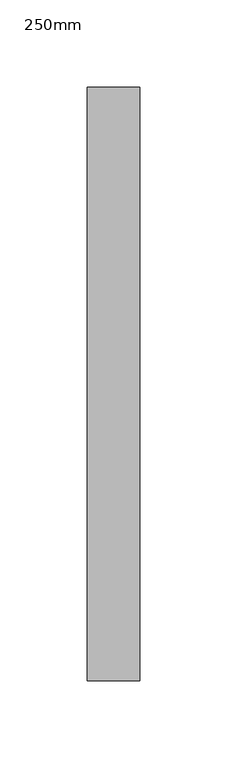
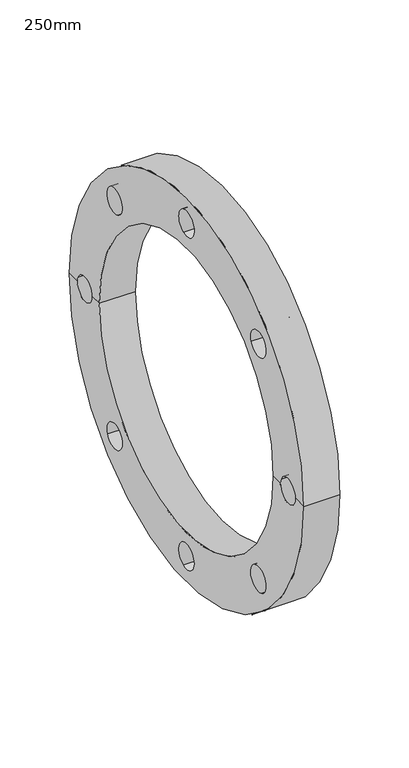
"""IFC4 building model written with IfcOpenShell, lengths in millimetres: pipe fitting geometry, Durapipe_PipeFitting_PVC_BackingFlange : 250mm."""

from ifc_helpers import new_model, si_unit, frame, origin, place, context, project, spatial, polyline, circle_curve, source, transform, mapped, element, save
from ifc_brep_helpers import plane_surface, cylinder_surface, revolved_surface, advanced_brep


def pipe_fitting_250mm_ace15a35(model_context):
    return source(origin(), model_context, "Body", "AdvancedBrep", [
        advanced_brep(
        [(-15.0, 170.0, 0.0), (15.0, 170.0, 0.0), (15.0, -170.0, 0.0), (-15.0, -170.0, 0.0), (-15.0, -158.0998543, 0.0), (-15.0, -157.2611011, -4.2679074), (-15.0, -136.1001255, 0.0), (-15.0, -126.0, 0.0), (-15.0, 126.0, 0.0), (-15.0, 136.1001255, 0.0), (-15.0, 136.9388787, -4.1586741), (-15.0, 158.0998543, 0.0), (-15.0, 114.2182572, -108.1825247), (-15.0, 93.889783, -99.7710364), (-15.0, 4.2679074, -157.2611011), (-15.0, -4.1586741, -136.9388787), (-15.0, -108.1825247, -114.2182572), (-15.0, -99.7710364, -93.889783), (-15.0, 157.2611011, 4.2679074), (-15.0, -136.9388787, 4.1586741), (-15.0, 108.1825247, 114.2182572), (-15.0, 99.7710364, 93.889783), (-15.0, -4.2679074, 157.2611011), (-15.0, 4.1586741, 136.9388787), (-15.0, -114.2182572, 108.1825247), (-15.0, -93.889783, 99.7710364), (15.0, 126.0, 0.0), (15.0, -126.0, 0.0), (15.0, -136.1001255, 0.0), (15.0, -157.2611011, -4.2679074), (15.0, -158.0998543, 0.0), (15.0, 158.0998543, 0.0), (15.0, 136.9388787, -4.1586741), (15.0, 136.1001255, 0.0), (15.0, 93.889783, -99.7710364), (15.0, 114.2182572, -108.1825247), (15.0, -4.1586741, -136.9388787), (15.0, 4.2679074, -157.2611011), (15.0, -99.7710364, -93.889783), (15.0, -108.1825247, -114.2182572), (15.0, 157.2611011, 4.2679074), (15.0, -136.9388787, 4.1586741), (15.0, 99.7710364, 93.889783), (15.0, 108.1825247, 114.2182572), (15.0, 4.1586741, 136.9388787), (15.0, -4.2679074, 157.2611011), (15.0, -93.889783, 99.7710364), (15.0, -114.2182572, 108.1825247)],
        [
            (0, 1),
            (1, 2, circle_curve(frame((15.0, 0.0, 0.0), z_axis=(-1.0, 0.0, 0.0), x_axis=(0.0, 1.0, 0.0)), 170.0)),
            (2, 3),
            (3, 0, circle_curve(frame((-15.0, 0.0, 0.0), z_axis=(1.0, 0.0, 0.0), x_axis=(0.0, 1.0, 0.0)), 170.0)),
            (0, 3, circle_curve(frame((-15.0, 0.0, 0.0), z_axis=(1.0, 0.0, 0.0), x_axis=(0.0, 1.0, 0.0)), 170.0)),
            (2, 1, circle_curve(frame((15.0, 0.0, 0.0), z_axis=(-1.0, 0.0, 0.0), x_axis=(0.0, 1.0, 0.0)), 170.0)),
            (3, 4),
            (4, 5, circle_curve(frame((-15.0, -147.0999899, -0.0546166), z_axis=(1.0, 0.0, 0.0), x_axis=(0.0, -0.9237373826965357, -0.38302643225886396)), 11.0)),
            (5, 6, circle_curve(frame((-15.0, -147.0999899, -0.0546166), z_axis=(1.0, 0.0, 0.0), x_axis=(0.0, -0.9237373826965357, -0.38302643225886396)), 11.0)),
            (6, 7),
            (7, 8, circle_curve(frame((-15.0, 0.0, 0.0), z_axis=(1.0, 0.0, 0.0), x_axis=(0.0, 1.0, 0.0)), 126.0)),
            (8, 9),
            (9, 10, circle_curve(frame((-15.0, 147.0999899, 0.0546166), z_axis=(1.0, 0.0, 0.0), x_axis=(0.0, 0.92373738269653, 0.38302643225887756)), 11.0)),
            (10, 11, circle_curve(frame((-15.0, 147.0999899, 0.0546166), z_axis=(1.0, 0.0, 0.0), x_axis=(0.0, 0.92373738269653, 0.38302643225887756)), 11.0)),
            (11, 0),
            (12, 13, circle_curve(frame((-15.0, 104.0540201, -103.9767806), z_axis=(1.0, 0.0, 0.0), x_axis=(0.0, 0.9240215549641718, -0.3823403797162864)), 11.0)),
            (13, 12, circle_curve(frame((-15.0, 104.0540201, -103.9767806), z_axis=(1.0, 0.0, 0.0), x_axis=(0.0, 0.9240215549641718, -0.3823403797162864)), 11.0)),
            (14, 15, circle_curve(frame((-15.0, 0.0546166, -147.0999899), z_axis=(1.0, 0.0, 0.0), x_axis=(0.0, 0.3830264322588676, -0.9237373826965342)), 11.0)),
            (15, 14, circle_curve(frame((-15.0, 0.0546166, -147.0999899), z_axis=(1.0, 0.0, 0.0), x_axis=(0.0, 0.3830264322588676, -0.9237373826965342)), 11.0)),
            (16, 17, circle_curve(frame((-15.0, -103.9767806, -104.0540201), z_axis=(1.0, 0.0, 0.0), x_axis=(0.0, -0.3823403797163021, -0.9240215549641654)), 11.0)),
            (17, 16, circle_curve(frame((-15.0, -103.9767806, -104.0540201), z_axis=(1.0, 0.0, 0.0), x_axis=(0.0, -0.3823403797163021, -0.9240215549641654)), 11.0)),
            (11, 18, circle_curve(frame((-15.0, 147.0999899, 0.0546166), z_axis=(1.0, 0.0, 0.0), x_axis=(0.0, 0.92373738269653, 0.38302643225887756)), 11.0)),
            (18, 9, circle_curve(frame((-15.0, 147.0999899, 0.0546166), z_axis=(1.0, 0.0, 0.0), x_axis=(0.0, 0.92373738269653, 0.38302643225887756)), 11.0)),
            (8, 7, circle_curve(frame((-15.0, 0.0, 0.0), z_axis=(1.0, 0.0, 0.0), x_axis=(0.0, 1.0, 0.0)), 126.0)),
            (6, 19, circle_curve(frame((-15.0, -147.0999899, -0.0546166), z_axis=(1.0, 0.0, 0.0), x_axis=(0.0, -0.9237373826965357, -0.38302643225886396)), 11.0)),
            (19, 4, circle_curve(frame((-15.0, -147.0999899, -0.0546166), z_axis=(1.0, 0.0, 0.0), x_axis=(0.0, -0.9237373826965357, -0.38302643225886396)), 11.0)),
            (20, 21, circle_curve(frame((-15.0, 103.9767806, 104.0540201), z_axis=(1.0, 0.0, 0.0), x_axis=(0.0, 0.3823403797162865, 0.9240215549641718)), 11.0)),
            (21, 20, circle_curve(frame((-15.0, 103.9767806, 104.0540201), z_axis=(1.0, 0.0, 0.0), x_axis=(0.0, 0.3823403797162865, 0.9240215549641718)), 11.0)),
            (22, 23, circle_curve(frame((-15.0, -0.0546166, 147.0999899), z_axis=(1.0, 0.0, 0.0), x_axis=(0.0, -0.38302643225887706, 0.9237373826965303)), 11.0)),
            (23, 22, circle_curve(frame((-15.0, -0.0546166, 147.0999899), z_axis=(1.0, 0.0, 0.0), x_axis=(0.0, -0.38302643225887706, 0.9237373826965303)), 11.0)),
            (24, 25, circle_curve(frame((-15.0, -104.0540201, 103.9767806), z_axis=(1.0, 0.0, 0.0), x_axis=(0.0, -0.9240215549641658, 0.38234037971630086)), 11.0)),
            (25, 24, circle_curve(frame((-15.0, -104.0540201, 103.9767806), z_axis=(1.0, 0.0, 0.0), x_axis=(0.0, -0.9240215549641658, 0.38234037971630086)), 11.0)),
            (26, 8),
            (7, 27),
            (27, 26, circle_curve(frame((15.0, 0.0, 0.0), z_axis=(1.0, 0.0, 0.0), x_axis=(0.0, 1.0, 0.0)), 126.0)),
            (26, 27, circle_curve(frame((15.0, 0.0, 0.0), z_axis=(1.0, 0.0, 0.0), x_axis=(0.0, 1.0, 0.0)), 126.0)),
            (27, 28),
            (28, 29, circle_curve(frame((15.0, -147.0999899, -0.0546166), z_axis=(-1.0, 0.0, 0.0), x_axis=(0.0, -0.9237373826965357, -0.38302643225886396)), 11.0)),
            (29, 30, circle_curve(frame((15.0, -147.0999899, -0.0546166), z_axis=(-1.0, 0.0, 0.0), x_axis=(0.0, -0.9237373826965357, -0.38302643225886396)), 11.0)),
            (30, 2),
            (1, 31),
            (31, 32, circle_curve(frame((15.0, 147.0999899, 0.0546166), z_axis=(-1.0, 0.0, 0.0), x_axis=(0.0, 0.92373738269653, 0.38302643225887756)), 11.0)),
            (32, 33, circle_curve(frame((15.0, 147.0999899, 0.0546166), z_axis=(-1.0, 0.0, 0.0), x_axis=(0.0, 0.92373738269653, 0.38302643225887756)), 11.0)),
            (33, 26),
            (34, 35, circle_curve(frame((15.0, 104.0540201, -103.9767806), z_axis=(-1.0, 0.0, 0.0), x_axis=(0.0, 0.9240215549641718, -0.3823403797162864)), 11.0)),
            (35, 34, circle_curve(frame((15.0, 104.0540201, -103.9767806), z_axis=(-1.0, 0.0, 0.0), x_axis=(0.0, 0.9240215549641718, -0.3823403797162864)), 11.0)),
            (36, 37, circle_curve(frame((15.0, 0.0546166, -147.0999899), z_axis=(-1.0, 0.0, 0.0), x_axis=(0.0, 0.3830264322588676, -0.9237373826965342)), 11.0)),
            (37, 36, circle_curve(frame((15.0, 0.0546166, -147.0999899), z_axis=(-1.0, 0.0, 0.0), x_axis=(0.0, 0.3830264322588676, -0.9237373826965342)), 11.0)),
            (38, 39, circle_curve(frame((15.0, -103.9767806, -104.0540201), z_axis=(-1.0, 0.0, 0.0), x_axis=(0.0, -0.3823403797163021, -0.9240215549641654)), 11.0)),
            (39, 38, circle_curve(frame((15.0, -103.9767806, -104.0540201), z_axis=(-1.0, 0.0, 0.0), x_axis=(0.0, -0.3823403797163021, -0.9240215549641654)), 11.0)),
            (33, 40, circle_curve(frame((15.0, 147.0999899, 0.0546166), z_axis=(-1.0, 0.0, 0.0), x_axis=(0.0, 0.92373738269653, 0.38302643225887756)), 11.0)),
            (40, 31, circle_curve(frame((15.0, 147.0999899, 0.0546166), z_axis=(-1.0, 0.0, 0.0), x_axis=(0.0, 0.92373738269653, 0.38302643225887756)), 11.0)),
            (30, 41, circle_curve(frame((15.0, -147.0999899, -0.0546166), z_axis=(-1.0, 0.0, 0.0), x_axis=(0.0, -0.9237373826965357, -0.38302643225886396)), 11.0)),
            (41, 28, circle_curve(frame((15.0, -147.0999899, -0.0546166), z_axis=(-1.0, 0.0, 0.0), x_axis=(0.0, -0.9237373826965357, -0.38302643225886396)), 11.0)),
            (42, 43, circle_curve(frame((15.0, 103.9767806, 104.0540201), z_axis=(-1.0, 0.0, 0.0), x_axis=(0.0, 0.3823403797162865, 0.9240215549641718)), 11.0)),
            (43, 42, circle_curve(frame((15.0, 103.9767806, 104.0540201), z_axis=(-1.0, 0.0, 0.0), x_axis=(0.0, 0.3823403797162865, 0.9240215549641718)), 11.0)),
            (44, 45, circle_curve(frame((15.0, -0.0546166, 147.0999899), z_axis=(-1.0, 0.0, 0.0), x_axis=(0.0, -0.38302643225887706, 0.9237373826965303)), 11.0)),
            (45, 44, circle_curve(frame((15.0, -0.0546166, 147.0999899), z_axis=(-1.0, 0.0, 0.0), x_axis=(0.0, -0.38302643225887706, 0.9237373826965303)), 11.0)),
            (46, 47, circle_curve(frame((15.0, -104.0540201, 103.9767806), z_axis=(-1.0, 0.0, 0.0), x_axis=(0.0, -0.9240215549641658, 0.38234037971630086)), 11.0)),
            (47, 46, circle_curve(frame((15.0, -104.0540201, 103.9767806), z_axis=(-1.0, 0.0, 0.0), x_axis=(0.0, -0.9240215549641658, 0.38234037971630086)), 11.0)),
            (36, 15),
            (14, 37),
            (34, 13),
            (12, 35),
            (32, 10),
            (18, 40),
            (42, 21),
            (20, 43),
            (44, 23),
            (22, 45),
            (46, 25),
            (24, 47),
            (41, 19),
            (5, 29),
            (38, 17),
            (16, 39),
        ],
        [
            cylinder_surface(frame((-33.7738734, 0.0, 0.0), z_axis=(-1.0, 0.0, 0.0), x_axis=(0.0, 1.0, 0.0)), 170.0),
            plane_surface(frame((-15.0, 0.0, 0.0), z_axis=(-1.0, 0.0, 0.0), x_axis=(0.0, 1.0, 0.0))),
            revolved_surface(polyline([(-15.0, 126.0, 0.0), (15.0, 126.0, 0.0)]), (-33.7738734, 0.0, 0.0), (-1.0, 0.0, 0.0)),
            plane_surface(frame((15.0, 0.0, 0.0), z_axis=(1.0, 0.0, 0.0), x_axis=(0.0, 1.0, 0.0))),
            revolved_surface(polyline([(-15.000000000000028, 4.267907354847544, -157.26110110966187), (14.999999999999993, 4.267907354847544, -157.26110110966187)]), (35.0, 0.0546166, -147.0999899), (-1.0000000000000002, 0.0, 0.0)),
            revolved_surface(polyline([(-15.0, 114.21825720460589, -108.18252477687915), (15.0, 114.21825720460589, -108.18252477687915)]), (35.0, 104.0540201, -103.9767806), (-1.0, 0.0, 0.0)),
            revolved_surface(polyline([(-15.0, 157.26110110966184, 4.267907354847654), (15.0, 157.26110110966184, 4.267907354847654)]), (35.0, 147.0999899, 0.0546166), (-1.0, 0.0, 0.0)),
            revolved_surface(polyline([(-15.000000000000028, 108.18252477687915, 114.21825720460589), (14.999999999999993, 108.18252477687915, 114.21825720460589)]), (35.0, 103.9767806, 104.0540201), (-1.0000000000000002, 0.0, 0.0)),
            revolved_surface(polyline([(-15.000000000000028, -4.267907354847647, 157.26110110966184), (14.999999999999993, -4.267907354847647, 157.26110110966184)]), (35.0, -0.0546166, 147.0999899), (-1.0000000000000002, 0.0, 0.0)),
            revolved_surface(polyline([(-15.0, -114.21825720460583, 108.1825247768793), (15.0, -114.21825720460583, 108.1825247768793)]), (35.0, -104.0540201, 103.9767806), (-1.0, 0.0, 0.0)),
            revolved_surface(polyline([(-15.000000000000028, -157.2611011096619, -4.2679073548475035), (14.999999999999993, -157.2611011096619, -4.2679073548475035)]), (35.0, -147.0999899, -0.0546166), (-1.0000000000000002, 0.0, 0.0)),
            revolved_surface(polyline([(-15.000000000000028, -108.18252477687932, -114.21825720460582), (14.999999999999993, -108.18252477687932, -114.21825720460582)]), (35.0, -103.9767806, -104.0540201), (-1.0000000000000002, 0.0, 0.0)),
        ],
        [
            (0, [[1, 2, 3, 4]]),
            (0, [[-1, 5, -3, 6]]),
            (1, [[-4, 7, 8, 9, 10, 11, 12, 13, 14, 15], [16, 17], [18, 19], [20, 21]]),
            (1, [[-5, -15, 22, 23, -12, 24, -10, 25, 26, -7], [27, 28], [29, 30], [31, 32]]),
            (2, [[33, -11, 34, 35]]),
            (2, [[-33, 36, -34, -24]]),
            (3, [[-35, 37, 38, 39, 40, -2, 41, 42, 43, 44], [45, 46], [47, 48], [49, 50]]),
            (3, [[-36, -44, 51, 52, -41, -6, -40, 53, 54, -37], [55, 56], [57, 58], [59, 60]]),
            (4, [[61, -18, 62, -47]]),
            (4, [[-61, -48, -62, -19]]),
            (5, [[63, -16, 64, -45]]),
            (5, [[-63, -46, -64, -17]]),
            (6, [[65, -13, -23, 66, -51, -43]]),
            (6, [[-65, -42, -52, -66, -22, -14]]),
            (7, [[67, -27, 68, -55]]),
            (7, [[-67, -56, -68, -28]]),
            (8, [[69, -29, 70, -57]]),
            (8, [[-69, -58, -70, -30]]),
            (9, [[71, -31, 72, -59]]),
            (9, [[-71, -60, -72, -32]]),
            (10, [[73, -25, -9, 74, -38, -54]]),
            (10, [[-73, -53, -39, -74, -8, -26]]),
            (11, [[75, -20, 76, -49]]),
            (11, [[-75, -50, -76, -21]]),
        ],
    ),
    ])


if __name__ == "__main__":
    model = new_model("IFC4")
    model_context = context("Model", 3, world=origin())
    ifc_project = project(units=[si_unit("LENGTHUNIT", "METRE", prefix="MILLI")], contexts=[model_context])
    site = spatial("IfcSite", under=ifc_project)
    building = spatial("IfcBuilding", under=site)
    placement = place(None, origin())
    pipe_fitting_250mm_shape = pipe_fitting_250mm_ace15a35(model_context)
    element("IfcPipeFitting", 1, ObjectType="Durapipe_PipeFitting_PVC_BackingFlange : 250mm", at=placement, inside=building, context=model_context, shape_type="MappedRepresentation", body=[
        mapped(pipe_fitting_250mm_shape, transform((0.0, 0.0, 0.0), x_axis=(1.0, 0.0, 0.0), y_axis=(0.0, 1.0, 0.0), z_axis=(0.0, 0.0, 1.0))),
    ])
    save(model, "model.ifc")
